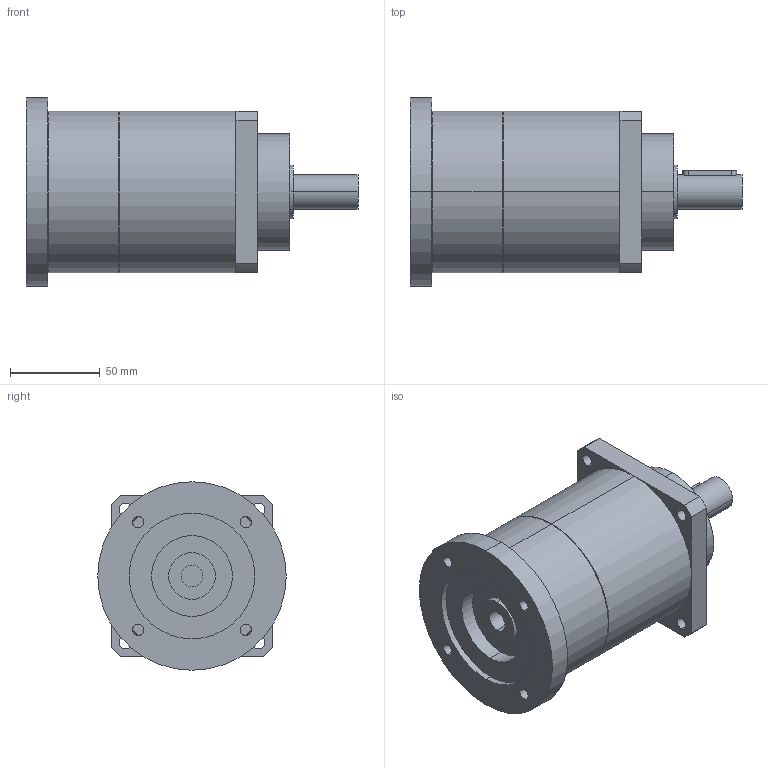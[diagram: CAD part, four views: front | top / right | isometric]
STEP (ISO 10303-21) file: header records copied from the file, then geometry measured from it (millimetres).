
FILE_DESCRIPTION(('CoCreate Modeling STEP Export'),'2;1');
FILE_NAME('GPT90_ig-9-12-16-20-25-28-35-40-50-70-100_19_B5T_12_P04.stp','2015-02-04T11:28:14',(''),(''),'CoCreate Modeling STEP processor for AP214 (Solid Model)','CoCreate Modeling 16.00C 25-Feb-2009 (C) Parametric Technology GmbH','');
FILE_SCHEMA(('AUTOMOTIVE_DESIGN { 1 0 10303 214 1 1 1 1 }'));
Length unit declared in the file: millimetre
Products named in the file (2): GPT90_ig-9-12-16-20-25-28-35-40-50-70-100_19_B5T_12_P04
Assembly tree (1 placements, depth 2):
  GPT90_ig-9-12-16-20-25-28-35-40-50-70-100_19_B5T_12_P04
    GPT90_ig-9-12-16-20-25-28-35-40-50-70-100_19_B5T_12_P04
Bounding box: 185 x 105 x 105 mm (x, y, z)
Volume: 906930.7 mm3; surface area: 70633.4 mm2
Topology: 1 solids, 1 shells, 75 faces, 206 edges, 139 vertices
Faces by surface type: cylinder 44, plane 27, cone 4
Entity records: 2482 total; most frequent: CARTESIAN_POINT 718, ORIENTED_EDGE 412, DIRECTION 294, EDGE_CURVE 206, VERTEX_POINT 139, AXIS2_PLACEMENT_3D 112, EDGE_LOOP 97, FACE_OUTER_BOUND 75
